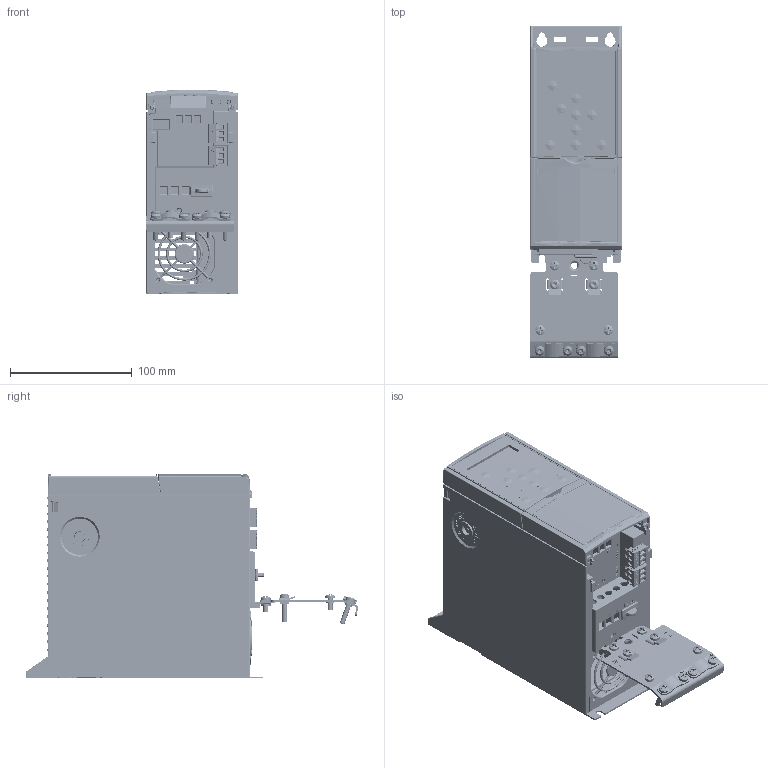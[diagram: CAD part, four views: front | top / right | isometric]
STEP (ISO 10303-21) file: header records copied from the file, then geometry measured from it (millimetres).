
FILE_DESCRIPTION((''),'2;1');
FILE_NAME('H1-IP20_ASM_ASM','2012-01-10T',('U255134'),('Danfoss Power Electronics'),'PRO/ENGINEER BY PARAMETRIC TECHNOLOGY CORPORATION, 2010370','PRO/ENGINEER BY PARAMETRIC TECHNOLOGY CORPORATION, 2010370','');
FILE_SCHEMA(('CONFIG_CONTROL_DESIGN', 'GEOMETRIC_VALIDATION_PROPERTIES_MIM'));
Products named in the file (31): 132B6100; 132B5721; 132B6100_ASM_ASM; H1-PCA_ASM_ASM; 132B4111; 132B3405; 132B3400; 132B4121; 132B4148_UMSH-8244JN-F; LCD_LIGHTGUIDE_ASM_ASM; 132B4142; 132B4296; 132B9105_ASM_ASM; 132B3429_ASM_ASM; 132B4132; 132B4116; 132B5734; 132B5734_CODE; 132B5734_ASM_ASM; 132B5733; 132B5733_CODE; 132B5733_ASM_ASM; 132B3416_ASM_ASM; 132B4140; 132B3424; 132B3460; 681X0366; 195N2449; 132B3426_ASM_ASM; 681X0488; H1-IP20_ASM_ASM
Assembly tree (43 placements, depth 4):
  H1-IP20_ASM_ASM
    H1-PCA_ASM_ASM
      132B6100_ASM_ASM
        132B6100
        132B5721  x2
    132B4111
    132B3405
    132B3400
    132B4121
    132B9105_ASM_ASM
      LCD_LIGHTGUIDE_ASM_ASM
        132B4148_UMSH-8244JN-F
      132B4142
      132B4296
    132B3429_ASM_ASM
      132B3400
    132B4132
    132B4116
    132B5734_ASM_ASM
      132B5734
      132B5734_CODE
    132B5733_ASM_ASM
      132B5733
      132B5733_CODE
    132B3416_ASM_ASM
      132B3405
    132B4140
    132B3426_ASM_ASM
      132B3424
      132B3460  x2
      681X0366  x6
      195N2449  x2
    681X0488  x4
Bounding box: 75 x 272.85 x 168.31 mm (x, y, z)
Volume: 416395.4 mm3; surface area: 477354.8 mm2
Topology: 34 solids, 83 shells, 18442 faces, 51040 edges, 33004 vertices
Faces by surface type: plane 13334, cylinder 3366, bspline 597, sphere 403, torus 385, cone 357
Entity records: 682542 total; most frequent: CARTESIAN_POINT 167800, ORIENTED_EDGE 92011, DIRECTION 76559, EDGE_CURVE 46317, VECTOR 30475, LINE 30475, VERTEX_POINT 30225, PRESENTATION_STYLE_ASSIGNMENT 24185
